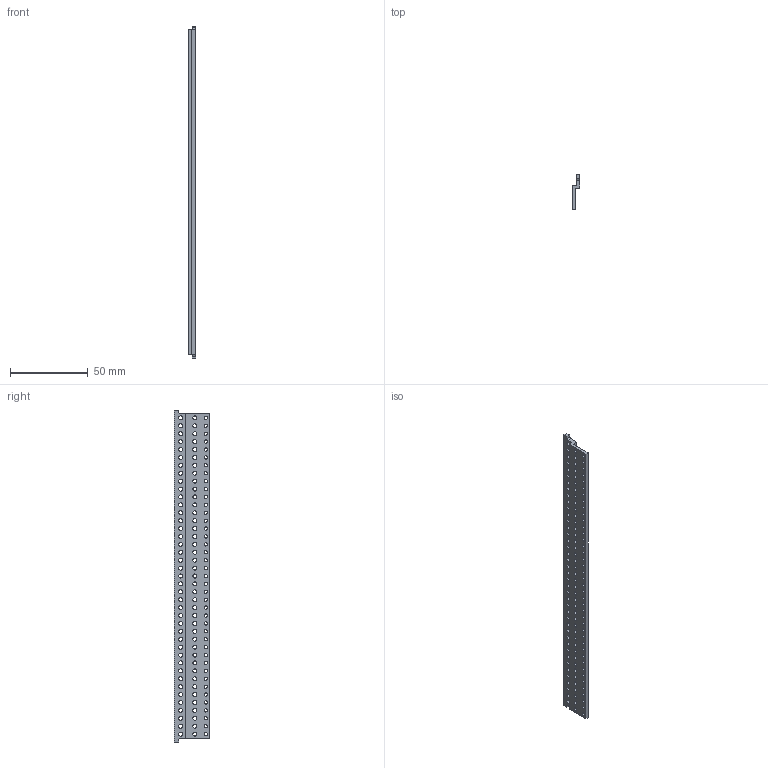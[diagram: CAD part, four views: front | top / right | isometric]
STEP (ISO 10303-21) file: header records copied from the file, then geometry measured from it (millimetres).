
FILE_DESCRIPTION(('STEP AP214'),'1');
FILE_NAME('30822047.stp','2019-03-12T18:02:37',('TraceParts'),('TraceParts S.A.'),'Spatial InterOp 3D',' ',' ');
FILE_SCHEMA(('automotive_design'));
Length unit declared in the file: millimetre
Products named in the file (1): 30822047
Bounding box: 5.1 x 22.6 x 213.36 mm (x, y, z)
Volume: 10111.9 mm3; surface area: 12597.3 mm2
Topology: 1 solids, 1 shells, 262 faces, 780 edges, 520 vertices
Faces by surface type: bspline 262
Entity records: 15841 total; most frequent: CARTESIAN_POINT 7073, ORIENTED_EDGE 1560, EDGE_CURVE 780, PRESENTATION_STYLE_ASSIGNMENT 732, COLOUR_RGB 732, STYLED_ITEM 715, VERTEX_POINT 520, EDGE_LOOP 508
